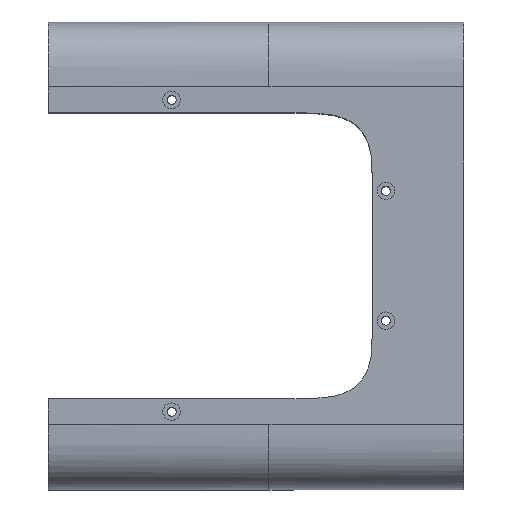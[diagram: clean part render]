
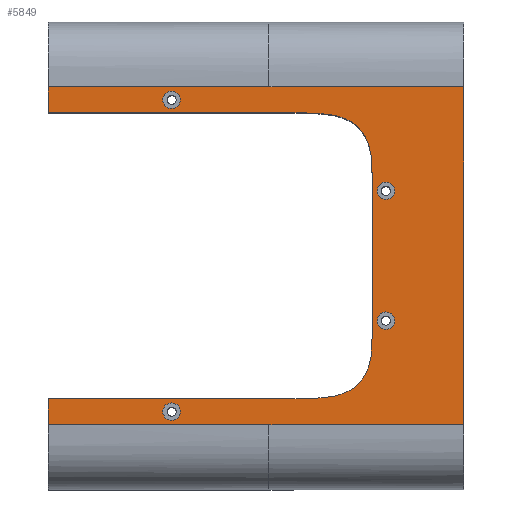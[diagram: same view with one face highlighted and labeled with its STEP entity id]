
A CAD part, top view. The second image highlights one B-rep face of the part: STEP entity #5849.
In plain terms, the highlighted planar face has unit normal (0, 0, 1).
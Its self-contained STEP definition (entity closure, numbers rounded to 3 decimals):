
#294=LINE('',#11191,#664);
#300=LINE('',#11207,#670);
#333=LINE('',#12990,#703);
#334=LINE('',#13022,#704);
#369=LINE('',#20841,#739);
#470=LINE('',#24108,#840);
#475=LINE('',#24136,#845);
#506=LINE('',#25885,#876);
#507=LINE('',#25916,#877);
#508=LINE('',#25917,#878);
#664=VECTOR('',#6492,10.);
#670=VECTOR('',#6504,10.);
#703=VECTOR('',#6571,10.);
#704=VECTOR('',#6572,10.);
#739=VECTOR('',#6671,10.);
#840=VECTOR('',#6932,10.);
#845=VECTOR('',#6941,10.);
#876=VECTOR('',#7006,10.);
#877=VECTOR('',#7009,10.);
#878=VECTOR('',#7010,10.);
#945=(
BOUNDED_CURVE()
B_SPLINE_CURVE(5,(#12972,#12973,#12974,#12975,#12976,#12977),
 .UNSPECIFIED.,.F.,.F.)
B_SPLINE_CURVE_WITH_KNOTS((6,6),(0.,1.),.UNSPECIFIED.)
CURVE()
GEOMETRIC_REPRESENTATION_ITEM()
RATIONAL_B_SPLINE_CURVE((1.,1.,1.,1.,1.,1.))
REPRESENTATION_ITEM('')
);
#970=(
BOUNDED_CURVE()
B_SPLINE_CURVE(5,(#25877,#25878,#25879,#25880,#25881,#25882),
 .UNSPECIFIED.,.F.,.F.)
B_SPLINE_CURVE_WITH_KNOTS((6,6),(0.,1.),.UNSPECIFIED.)
CURVE()
GEOMETRIC_REPRESENTATION_ITEM()
RATIONAL_B_SPLINE_CURVE((1.,1.,1.,1.,1.,1.))
REPRESENTATION_ITEM('')
);
#1080=FACE_BOUND('',#1739,.T.);
#1081=FACE_BOUND('',#1740,.T.);
#1082=FACE_BOUND('',#1741,.T.);
#1083=FACE_BOUND('',#1742,.T.);
#1361=FACE_OUTER_BOUND('',#1738,.T.);
#1738=EDGE_LOOP('',(#5104,#5105,#5106,#5107,#5108,#5109,#5110,#5111,#5112,
#5113,#5114,#5115));
#1739=EDGE_LOOP('',(#5116));
#1740=EDGE_LOOP('',(#5117));
#1741=EDGE_LOOP('',(#5118));
#1742=EDGE_LOOP('',(#5119));
#1850=CIRCLE('',#6008,3.35);
#1852=CIRCLE('',#6011,3.35);
#1904=CIRCLE('',#6142,3.35);
#1905=CIRCLE('',#6144,3.35);
#2416=VERTEX_POINT('',#10516);
#2418=VERTEX_POINT('',#10522);
#2457=VERTEX_POINT('',#11155);
#2459=VERTEX_POINT('',#11174);
#2466=VERTEX_POINT('',#11205);
#2493=VERTEX_POINT('',#12970);
#2494=VERTEX_POINT('',#12971);
#2497=VERTEX_POINT('',#13021);
#2569=VERTEX_POINT('',#20839);
#2666=VERTEX_POINT('',#23455);
#2667=VERTEX_POINT('',#23459);
#2705=VERTEX_POINT('',#24090);
#2706=VERTEX_POINT('',#24107);
#2711=VERTEX_POINT('',#24135);
#2734=VERTEX_POINT('',#25876);
#2735=VERTEX_POINT('',#25915);
#3028=EDGE_CURVE('',#2416,#2416,#1850,.T.);
#3031=EDGE_CURVE('',#2418,#2418,#1852,.T.);
#3091=EDGE_CURVE('',#2457,#2459,#294,.T.);
#3099=EDGE_CURVE('',#2466,#2459,#300,.T.);
#3153=EDGE_CURVE('',#2493,#2494,#945,.T.);
#3158=EDGE_CURVE('',#2466,#2494,#333,.T.);
#3160=EDGE_CURVE('',#2497,#2457,#334,.T.);
#3269=EDGE_CURVE('',#2493,#2569,#369,.T.);
#3428=EDGE_CURVE('',#2666,#2666,#1904,.T.);
#3430=EDGE_CURVE('',#2667,#2667,#1905,.T.);
#3487=EDGE_CURVE('',#2705,#2706,#470,.T.);
#3494=EDGE_CURVE('',#2711,#2706,#475,.T.);
#3546=EDGE_CURVE('',#2569,#2734,#970,.T.);
#3548=EDGE_CURVE('',#2711,#2734,#506,.T.);
#3550=EDGE_CURVE('',#2735,#2705,#507,.T.);
#3551=EDGE_CURVE('',#2735,#2497,#508,.T.);
#5104=ORIENTED_EDGE('',*,*,#3269,.T.);
#5105=ORIENTED_EDGE('',*,*,#3546,.T.);
#5106=ORIENTED_EDGE('',*,*,#3548,.F.);
#5107=ORIENTED_EDGE('',*,*,#3494,.T.);
#5108=ORIENTED_EDGE('',*,*,#3487,.F.);
#5109=ORIENTED_EDGE('',*,*,#3550,.F.);
#5110=ORIENTED_EDGE('',*,*,#3551,.T.);
#5111=ORIENTED_EDGE('',*,*,#3160,.T.);
#5112=ORIENTED_EDGE('',*,*,#3091,.T.);
#5113=ORIENTED_EDGE('',*,*,#3099,.F.);
#5114=ORIENTED_EDGE('',*,*,#3158,.T.);
#5115=ORIENTED_EDGE('',*,*,#3153,.F.);
#5116=ORIENTED_EDGE('',*,*,#3031,.T.);
#5117=ORIENTED_EDGE('',*,*,#3028,.T.);
#5118=ORIENTED_EDGE('',*,*,#3428,.F.);
#5119=ORIENTED_EDGE('',*,*,#3430,.F.);
#5562=PLANE('',#6180);
#5849=ADVANCED_FACE('',(#1361,#1080,#1081,#1082,#1083),#5562,.F.);
#6008=AXIS2_PLACEMENT_3D('',#10517,#6427,#6428);
#6011=AXIS2_PLACEMENT_3D('',#10523,#6434,#6435);
#6142=AXIS2_PLACEMENT_3D('',#23456,#6872,#6873);
#6144=AXIS2_PLACEMENT_3D('',#23460,#6877,#6878);
#6180=AXIS2_PLACEMENT_3D('',#25914,#7007,#7008);
#6427=DIRECTION('center_axis',(0.,0.,
-1.));
#6428=DIRECTION('ref_axis',(-1.,0.,0.));
#6434=DIRECTION('center_axis',(0.,0.,
-1.));
#6435=DIRECTION('ref_axis',(-1.,0.,0.));
#6492=DIRECTION('',(-1.,0.,0.));
#6504=DIRECTION('',(0.,1.,0.));
#6571=DIRECTION('',(1.,0.,0.));
#6572=DIRECTION('',(-1.,0.,0.));
#6671=DIRECTION('',(0.,-1.,0.));
#6872=DIRECTION('center_axis',(0.,0.,
1.));
#6873=DIRECTION('ref_axis',(-1.,0.,0.));
#6877=DIRECTION('center_axis',(0.,0.,
1.));
#6878=DIRECTION('ref_axis',(-1.,0.,0.));
#6932=DIRECTION('',(-1.,0.,0.));
#6941=DIRECTION('',(0.,-1.,0.));
#7006=DIRECTION('',(1.,0.,0.));
#7007=DIRECTION('center_axis',(0.,0.,
-1.));
#7008=DIRECTION('ref_axis',(0.,-1.,0.));
#7009=DIRECTION('',(-1.,0.,0.));
#7010=DIRECTION('',(0.,1.,0.));
#10516=CARTESIAN_POINT('',(133.35,25.,41.5));
#10517=CARTESIAN_POINT('Origin',(130.,25.,41.5));
#10522=CARTESIAN_POINT('',(50.85,60.,41.5));
#10523=CARTESIAN_POINT('Origin',(47.5,60.,41.5));
#11155=CARTESIAN_POINT('',(85.,65.,41.5));
#11174=CARTESIAN_POINT('',(0.,65.,41.5));
#11191=CARTESIAN_POINT('',(85.,65.,41.5));
#11205=CARTESIAN_POINT('',(0.,55.,41.5));
#11207=CARTESIAN_POINT('',(0.,33.75,41.5));
#12970=CARTESIAN_POINT('',(125.,25.,41.5));
#12971=CARTESIAN_POINT('',(95.,55.,41.5));
#12972=CARTESIAN_POINT('Ctrl Pts',(125.,25.,41.5));
#12973=CARTESIAN_POINT('Ctrl Pts',(125.,40.,41.5));
#12974=CARTESIAN_POINT('Ctrl Pts',(125.,47.5,41.5));
#12975=CARTESIAN_POINT('Ctrl Pts',(117.5,55.,41.5));
#12976=CARTESIAN_POINT('Ctrl Pts',(110.,55.,41.5));
#12977=CARTESIAN_POINT('Ctrl Pts',(95.,55.,41.5));
#12990=CARTESIAN_POINT('',(100.,55.,41.5));
#13021=CARTESIAN_POINT('',(160.,65.,41.5));
#13022=CARTESIAN_POINT('',(160.,65.,41.5));
#20839=CARTESIAN_POINT('',(125.,-25.,41.5));
#20841=CARTESIAN_POINT('',(125.,35.,41.5));
#23455=CARTESIAN_POINT('',(133.35,-25.,41.5));
#23456=CARTESIAN_POINT('Origin',(130.,-25.,41.5));
#23459=CARTESIAN_POINT('',(50.85,-60.,41.5));
#23460=CARTESIAN_POINT('Origin',(47.5,-60.,41.5));
#24090=CARTESIAN_POINT('',(85.,-65.,41.5));
#24107=CARTESIAN_POINT('',(0.,-65.,41.5));
#24108=CARTESIAN_POINT('',(85.,-65.,41.5));
#24135=CARTESIAN_POINT('',(0.,-55.,41.5));
#24136=CARTESIAN_POINT('',(0.,-33.75,41.5));
#25876=CARTESIAN_POINT('',(95.,-55.,41.5));
#25877=CARTESIAN_POINT('Ctrl Pts',(125.,-25.,41.5));
#25878=CARTESIAN_POINT('Ctrl Pts',(125.,-40.,41.5));
#25879=CARTESIAN_POINT('Ctrl Pts',(125.,-47.5,41.5));
#25880=CARTESIAN_POINT('Ctrl Pts',(117.5,-55.,41.5));
#25881=CARTESIAN_POINT('Ctrl Pts',(110.,-55.,41.5));
#25882=CARTESIAN_POINT('Ctrl Pts',(95.,-55.,41.5));
#25885=CARTESIAN_POINT('',(100.,-55.,41.5));
#25914=CARTESIAN_POINT('Origin',(160.,-15.,41.5));
#25915=CARTESIAN_POINT('',(160.,-65.,41.5));
#25916=CARTESIAN_POINT('',(160.,-65.,41.5));
#25917=CARTESIAN_POINT('',(160.,-65.,41.5));
